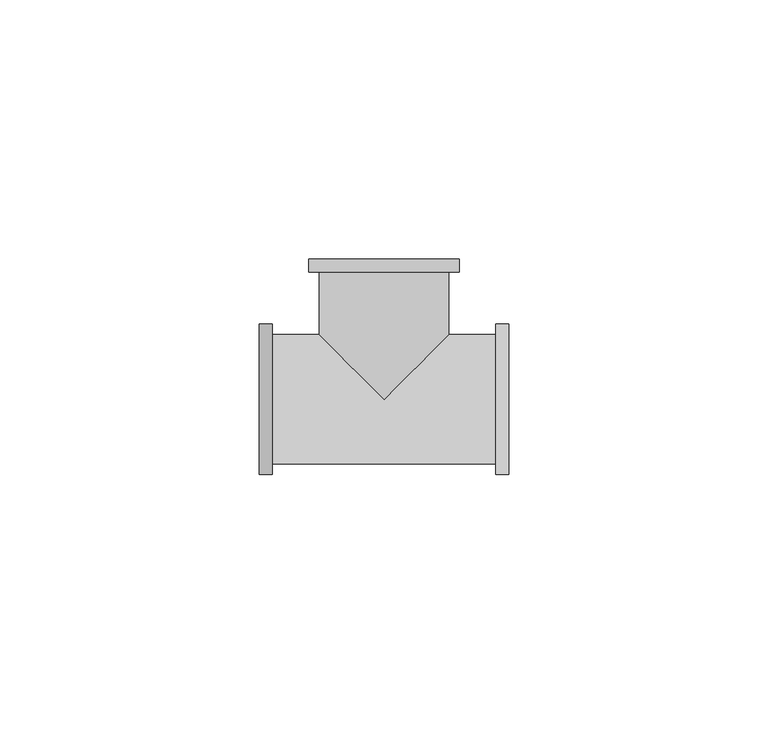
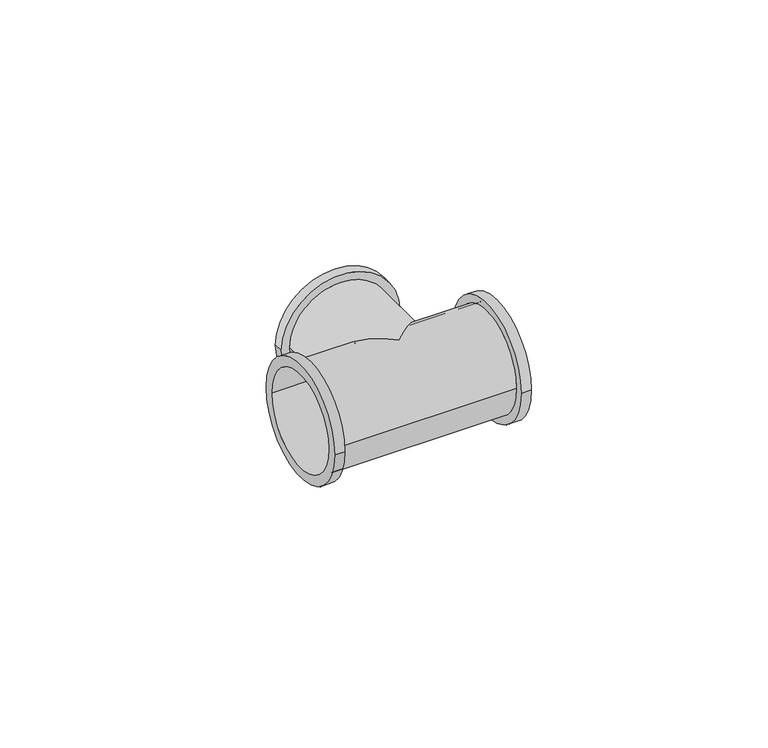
"""IFC4 building model written with IfcOpenShell, lengths in millimetres: pipe fitting geometry, БИР ПЕКС_КМП_Тройник ПЕКС : Тройник ПЕКС_КМП."""

from ifc_helpers import new_model, si_unit, frame, origin, place, context, project, spatial, polyline, circle_curve, ellipse_curve, source, transform, mapped, element, save
from ifc_brep_helpers import plane_surface, cylinder_surface, revolved_surface, advanced_brep


def pipe_fitting_7b19bd0a(model_context):
    return source(origin(), model_context, "Body", "AdvancedBrep", [
        advanced_brep(
        [(-14.5, 27.0, 0.0), (14.5, 27.0, 0.0), (-12.0, 27.0, 0.0), (12.0, 27.0, 0.0), (12.5, 12.5, 0.0), (0.0, 0.0, -12.5), (-12.5, 12.5, 0.0), (-12.5, 24.5, 0.0), (12.5, 24.5, 0.0), (0.0, 0.0, 12.5), (24.0, -14.5, 0.0), (24.0, 14.5, 0.0), (24.0, 12.0, 0.0), (24.0, -12.0, 0.0), (-24.0, -14.5, 0.0), (-24.0, 14.5, 0.0), (-24.0, -12.0, 0.0), (-24.0, 12.0, 0.0), (21.5, 12.5, 0.0), (21.5, -12.5, 0.0), (-21.5, -12.5, 0.0), (-21.5, 12.5, 0.0), (-14.5, 24.5, 0.0), (14.5, 24.5, 0.0), (-21.5, -14.5, 0.0), (-21.5, 14.5, 0.0), (21.5, -14.5, 0.0), (21.5, 14.5, 0.0), (-12.0, 12.0, 0.0), (0.0, 0.0, -12.0), (12.0, 12.0, 0.0), (0.0, 0.0, 12.0)],
        [
            (0, 1, circle_curve(frame((0.0, 27.0, 0.0), z_axis=(0.0, 1.0, 0.0), x_axis=(1.0, 0.0, 0.0)), 14.5)),
            (1, 0, circle_curve(frame((0.0, 27.0, 0.0), z_axis=(0.0, 1.0, 0.0), x_axis=(1.0, 0.0, 0.0)), 14.5)),
            (2, 3, circle_curve(frame((0.0, 27.0, 0.0), z_axis=(0.0, -1.0, 0.0), x_axis=(1.0, 0.0, 0.0)), 12.0)),
            (3, 2, circle_curve(frame((0.0, 27.0, 0.0), z_axis=(0.0, -1.0, 0.0), x_axis=(1.0, 0.0, 0.0)), 12.0)),
            (4, 5, ellipse_curve(frame((0.0, 0.0, 0.0), z_axis=(-0.7071067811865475, 0.7071067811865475, 0.0), x_axis=(-0.7071067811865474, -0.7071067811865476, 0.0)), 17.6776695, 12.5)),
            (5, 6, ellipse_curve(frame((0.0, 0.0, 0.0), z_axis=(0.7071067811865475, 0.7071067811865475, 0.0), x_axis=(0.7071067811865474, -0.7071067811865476, 0.0)), 17.6776695, 12.5)),
            (6, 7),
            (7, 8, circle_curve(frame((0.0, 24.5, 0.0), z_axis=(0.0, -1.0, 0.0), x_axis=(1.0, 0.0, 0.0)), 12.5)),
            (8, 4),
            (9, 4, ellipse_curve(frame((0.0, 0.0, 0.0), z_axis=(-0.7071067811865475, 0.7071067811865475, 0.0), x_axis=(-0.7071067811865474, -0.7071067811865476, 0.0)), 17.6776695, 12.5)),
            (8, 7, circle_curve(frame((0.0, 24.5, 0.0), z_axis=(0.0, -1.0, 0.0), x_axis=(1.0, 0.0, 0.0)), 12.5)),
            (6, 9, ellipse_curve(frame((0.0, 0.0, 0.0), z_axis=(0.7071067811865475, 0.7071067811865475, 0.0), x_axis=(0.7071067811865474, -0.7071067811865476, 0.0)), 17.6776695, 12.5)),
            (10, 11, circle_curve(frame((24.0, 0.0, 0.0), z_axis=(1.0, 0.0, 0.0), x_axis=(0.0, 1.0, 0.0)), 14.5)),
            (11, 10, circle_curve(frame((24.0, 0.0, 0.0), z_axis=(1.0, 0.0, 0.0), x_axis=(0.0, 1.0, 0.0)), 14.5)),
            (12, 13, circle_curve(frame((24.0, 0.0, 0.0), z_axis=(-1.0, 0.0, 0.0), x_axis=(0.0, 1.0, 0.0)), 12.0)),
            (13, 12, circle_curve(frame((24.0, 0.0, 0.0), z_axis=(-1.0, 0.0, 0.0), x_axis=(0.0, 1.0, 0.0)), 12.0)),
            (14, 15, circle_curve(frame((-24.0, 0.0, 0.0), z_axis=(-1.0, 0.0, 0.0), x_axis=(0.0, 1.0, 0.0)), 14.5)),
            (15, 14, circle_curve(frame((-24.0, 0.0, 0.0), z_axis=(-1.0, 0.0, 0.0), x_axis=(0.0, 1.0, 0.0)), 14.5)),
            (16, 17, circle_curve(frame((-24.0, 0.0, 0.0), z_axis=(1.0, 0.0, 0.0), x_axis=(0.0, 1.0, 0.0)), 12.0)),
            (17, 16, circle_curve(frame((-24.0, 0.0, 0.0), z_axis=(1.0, 0.0, 0.0), x_axis=(0.0, 1.0, 0.0)), 12.0)),
            (4, 18),
            (18, 19, circle_curve(frame((21.5, 0.0, 0.0), z_axis=(-1.0, 0.0, 0.0), x_axis=(0.0, 1.0, 0.0)), 12.5)),
            (19, 20),
            (20, 21, circle_curve(frame((-21.5, 0.0, 0.0), z_axis=(1.0, 0.0, 0.0), x_axis=(0.0, 1.0, 0.0)), 12.5)),
            (21, 6),
            (21, 20, circle_curve(frame((-21.5, 0.0, 0.0), z_axis=(1.0, 0.0, 0.0), x_axis=(0.0, 1.0, 0.0)), 12.5)),
            (19, 18, circle_curve(frame((21.5, 0.0, 0.0), z_axis=(-1.0, 0.0, 0.0), x_axis=(0.0, 1.0, 0.0)), 12.5)),
            (22, 23, circle_curve(frame((0.0, 24.5, 0.0), z_axis=(0.0, -1.0, 0.0), x_axis=(1.0, 0.0, 0.0)), 14.5)),
            (23, 22, circle_curve(frame((0.0, 24.5, 0.0), z_axis=(0.0, -1.0, 0.0), x_axis=(1.0, 0.0, 0.0)), 14.5)),
            (22, 0),
            (1, 23),
            (24, 25, circle_curve(frame((-21.5, 0.0, 0.0), z_axis=(1.0, 0.0, 0.0), x_axis=(0.0, 1.0, 0.0)), 14.5)),
            (25, 24, circle_curve(frame((-21.5, 0.0, 0.0), z_axis=(1.0, 0.0, 0.0), x_axis=(0.0, 1.0, 0.0)), 14.5)),
            (15, 25),
            (24, 14),
            (26, 27, circle_curve(frame((21.5, 0.0, 0.0), z_axis=(-1.0, 0.0, 0.0), x_axis=(0.0, 1.0, 0.0)), 14.5)),
            (27, 26, circle_curve(frame((21.5, 0.0, 0.0), z_axis=(-1.0, 0.0, 0.0), x_axis=(0.0, 1.0, 0.0)), 14.5)),
            (10, 26),
            (27, 11),
            (2, 28),
            (28, 29, ellipse_curve(frame((0.0, 0.0, 0.0), z_axis=(-0.7071067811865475, -0.7071067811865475, 0.0), x_axis=(0.7071067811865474, -0.7071067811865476, 0.0)), 16.9705627, 12.0)),
            (29, 30, ellipse_curve(frame((0.0, 0.0, 0.0), z_axis=(0.7071067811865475, -0.7071067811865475, 0.0), x_axis=(-0.7071067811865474, -0.7071067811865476, 0.0)), 16.9705627, 12.0)),
            (30, 3),
            (30, 31, ellipse_curve(frame((0.0, 0.0, 0.0), z_axis=(0.7071067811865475, -0.7071067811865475, 0.0), x_axis=(-0.7071067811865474, -0.7071067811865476, 0.0)), 16.9705627, 12.0)),
            (31, 28, ellipse_curve(frame((0.0, 0.0, 0.0), z_axis=(-0.7071067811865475, -0.7071067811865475, 0.0), x_axis=(0.7071067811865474, -0.7071067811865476, 0.0)), 16.9705627, 12.0)),
            (16, 13),
            (12, 30),
            (28, 17),
        ],
        [
            plane_surface(frame((12.5, 27.0, 0.0), z_axis=(0.0, 1.0, 0.0), x_axis=(0.0, 0.0, -1.0))),
            cylinder_surface(frame((0.0, 27.0, 0.0), z_axis=(0.0, -1.0, 0.0), x_axis=(1.0, 0.0, 0.0)), 12.5),
            plane_surface(frame((24.0, 12.5, 0.0), z_axis=(1.0, 0.0, 0.0), x_axis=(0.0, 0.0, 1.0))),
            plane_surface(frame((-24.0, 12.5, 0.0), z_axis=(-1.0, 0.0, 0.0), x_axis=(0.0, 0.0, -1.0))),
            cylinder_surface(frame((-24.0, 0.0, 0.0), z_axis=(1.0, 0.0, 0.0), x_axis=(0.0, 1.0, 0.0)), 12.5),
            plane_surface(frame((14.5, 24.5, 0.0), z_axis=(0.0, -1.0, 0.0), x_axis=(0.0, 0.0, 1.0))),
            cylinder_surface(frame((0.0, 27.0, 0.0), z_axis=(0.0, -1.0, 0.0), x_axis=(1.0, 0.0, 0.0)), 14.5),
            plane_surface(frame((-21.5, 14.5, 0.0), z_axis=(1.0, 0.0, 0.0), x_axis=(0.0, 0.0, 1.0))),
            cylinder_surface(frame((-21.5, 0.0, 0.0), z_axis=(-1.0, 0.0, 0.0), x_axis=(0.0, 1.0, 0.0)), 14.5),
            plane_surface(frame((21.5, 14.5, 0.0), z_axis=(-1.0, 0.0, 0.0), x_axis=(0.0, 0.0, -1.0))),
            cylinder_surface(frame((21.5, 0.0, 0.0), z_axis=(1.0, 0.0, 0.0), x_axis=(0.0, 1.0, 0.0)), 14.5),
            revolved_surface(polyline([(12.0, -11.999999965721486, 0.0), (12.0, 27.0, 0.0)]), (0.0, 27.0, 0.0), (0.0, -1.0, 0.0)),
            revolved_surface(polyline([(24.0, 12.0, 0.0), (-24.0, 12.0, 0.0)]), (-24.0, 0.0, 0.0), (1.0, 0.0, 0.0)),
        ],
        [
            (0, [[1, 2], [3, 4]]),
            (1, [[5, 6, 7, 8, 9]]),
            (1, [[10, -9, 11, -7, 12]]),
            (2, [[13, 14], [15, 16]]),
            (3, [[17, 18], [19, 20]]),
            (4, [[-5, 21, 22, 23, 24, 25, -6]]),
            (4, [[-10, -12, -25, 26, -23, 27, -21]]),
            (5, [[28, 29], [-8, -11]]),
            (6, [[-28, 30, -2, 31]]),
            (6, [[-29, -31, -1, -30]]),
            (7, [[32, 33], [-24, -26]]),
            (8, [[-18, 34, -32, 35]]),
            (8, [[-17, -35, -33, -34]]),
            (9, [[36, 37], [-22, -27]]),
            (10, [[-13, 38, -37, 39]]),
            (10, [[-14, -39, -36, -38]]),
            (11, [[-3, 40, 41, 42, 43]]),
            (11, [[-4, -43, 44, 45, -40]]),
            (12, [[46, -15, 47, -42, -41, 48, -19]]),
            (12, [[-46, -20, -48, -45, -44, -47, -16]]),
        ],
    ),
    ])


if __name__ == "__main__":
    model = new_model("IFC4")
    model_context = context("Model", 3, world=origin())
    ifc_project = project(units=[si_unit("LENGTHUNIT", "METRE", prefix="MILLI")], contexts=[model_context])
    site = spatial("IfcSite", under=ifc_project)
    building = spatial("IfcBuilding", under=site)
    placement = place(None, origin())
    pipe_fitting_shape = pipe_fitting_7b19bd0a(model_context)
    element("IfcPipeFitting", 1, ObjectType="БИР ПЕКС_КМП_Тройник ПЕКС : Тройник ПЕКС_КМП", at=placement, inside=building, context=model_context, shape_type="MappedRepresentation", body=[
        mapped(pipe_fitting_shape, transform((0.0, 0.0, 0.0), x_axis=(1.0, 0.0, 0.0), y_axis=(0.0, 1.0, 0.0), z_axis=(0.0, 0.0, 1.0))),
    ])
    save(model, "model.ifc")
